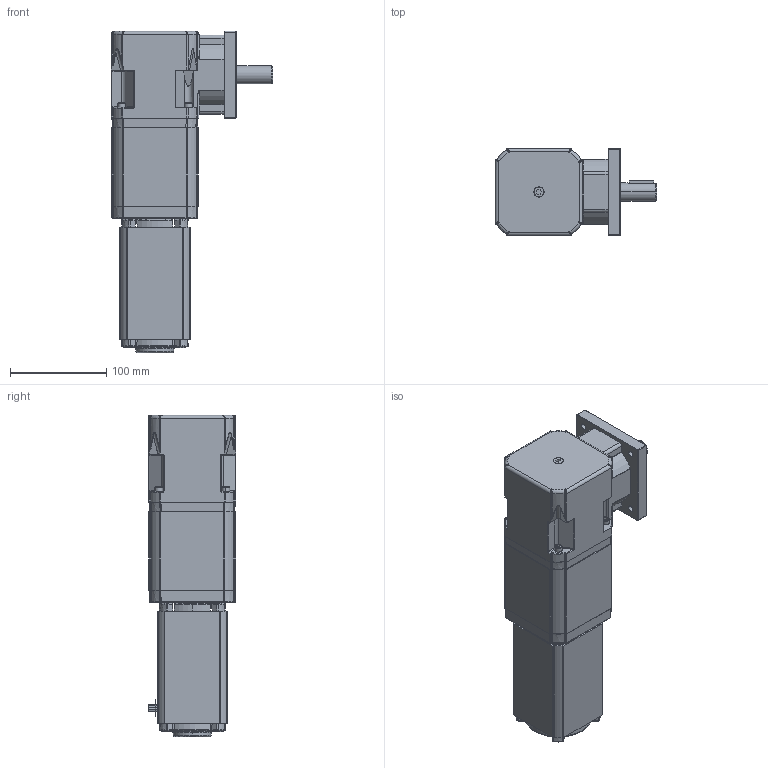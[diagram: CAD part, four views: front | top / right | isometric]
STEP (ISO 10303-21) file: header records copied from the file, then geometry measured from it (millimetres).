
FILE_DESCRIPTION (( 'STEP AP214' ), '1' );
FILE_NAME ('BL6540-RP7300_2S.STEP', '2013-08-28T18:05:12', ( '' ), ( '' ), 'SwSTEP 2.0', 'SolidWorks 2013', '' );
FILE_SCHEMA (( 'AUTOMOTIVE_DESIGN' ));
Length unit declared in the file: inch
Products named in the file (1): BL6540-RP7300_2S
Bounding box: 167.94 x 91.21 x 333.86 mm (x, y, z)
Surface area: 196583.3 mm2 (no closed solid volume)
Topology: 0 solids, 72 shells, 1257 faces, 4325 edges, 3016 vertices
Faces by surface type: cylinder 467, plane 354, cone 177, torus 140, bspline 86, sphere 33
Entity records: 69173 total; most frequent: CARTESIAN_POINT 16758, DIRECTION 7752, ORIENTED_EDGE 6732, EDGE_CURVE 4273, VERTEX_POINT 3016, AXIS2_PLACEMENT_3D 2936, LINE 1880, VECTOR 1880
